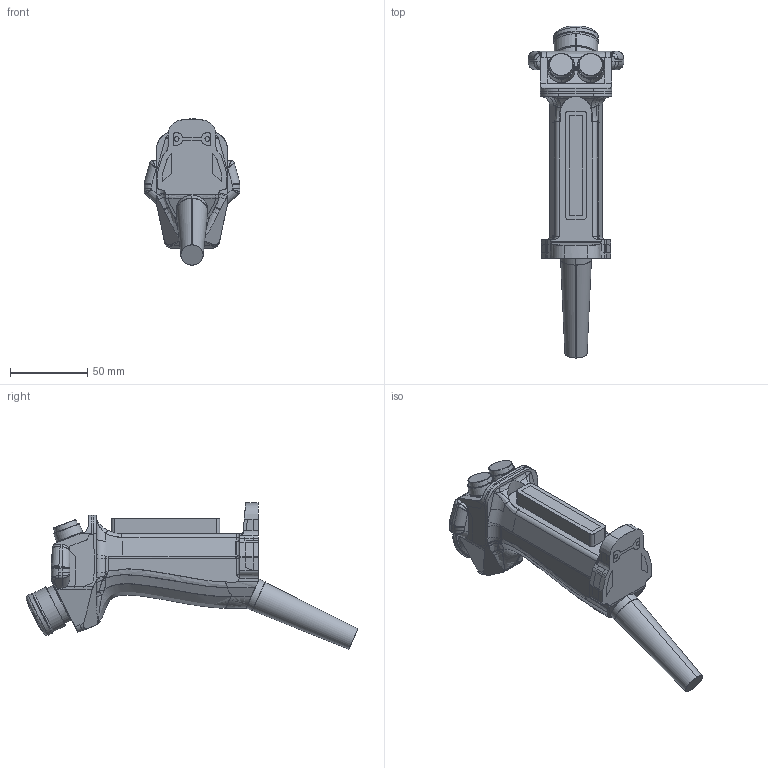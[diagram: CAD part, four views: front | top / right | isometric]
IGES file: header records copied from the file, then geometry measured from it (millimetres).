
Start section: SolidWorks IGES file using analytic representation for surfaces
Global section: file name: C:\catalog\sg-c1-21-emm.IGS; native system: SolidWorks 2019; preprocessor: SolidWorks 2019; author: 5131475; date: 230405.104122; units: millimetre
Bounding box: 62 x 214.59 x 94.55 mm (x, y, z)
Surface area: 35455 mm2 (no closed solid volume)
Topology: 0 solids, 0 shells, 472 faces, 5452 edges, 5431 vertices
Faces by surface type: bspline 338, revolution 134
